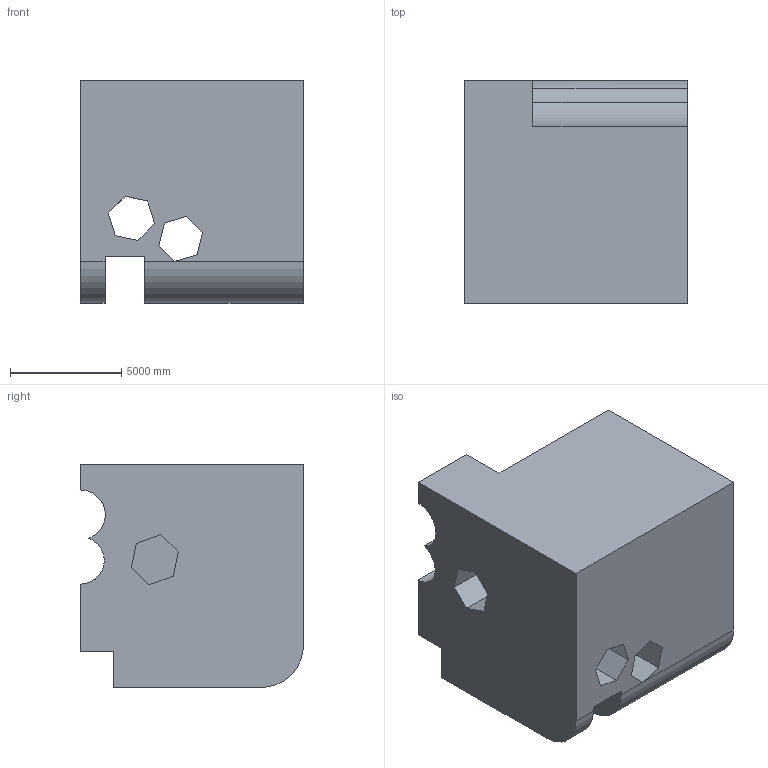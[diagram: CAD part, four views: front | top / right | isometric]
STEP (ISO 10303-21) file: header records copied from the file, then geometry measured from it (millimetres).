
FILE_DESCRIPTION (( 'STEP AP203' ), '1' );
FILE_NAME ('801.STEP', '2022-07-29T13:18:34', ( 'user' ), ( '' ), 'SwSTEP 2.0', 'SolidWorks 2021', '' );
FILE_SCHEMA (( 'CONFIG_CONTROL_DESIGN' ));
Length unit declared in the file: centimetre
Products named in the file (1): 801
Bounding box: 10000 x 10000 x 10000 mm (x, y, z)
Volume: 796535957875.1 mm3; surface area: 767254124.3 mm2
Topology: 1 solids, 1 shells, 41 faces, 126 edges, 84 vertices
Faces by surface type: plane 36, cylinder 5
Entity records: 1480 total; most frequent: CARTESIAN_POINT 264, ORIENTED_EDGE 252, DIRECTION 217, EDGE_CURVE 126, VECTOR 111, LINE 111, VERTEX_POINT 84, AXIS2_PLACEMENT_3D 53
